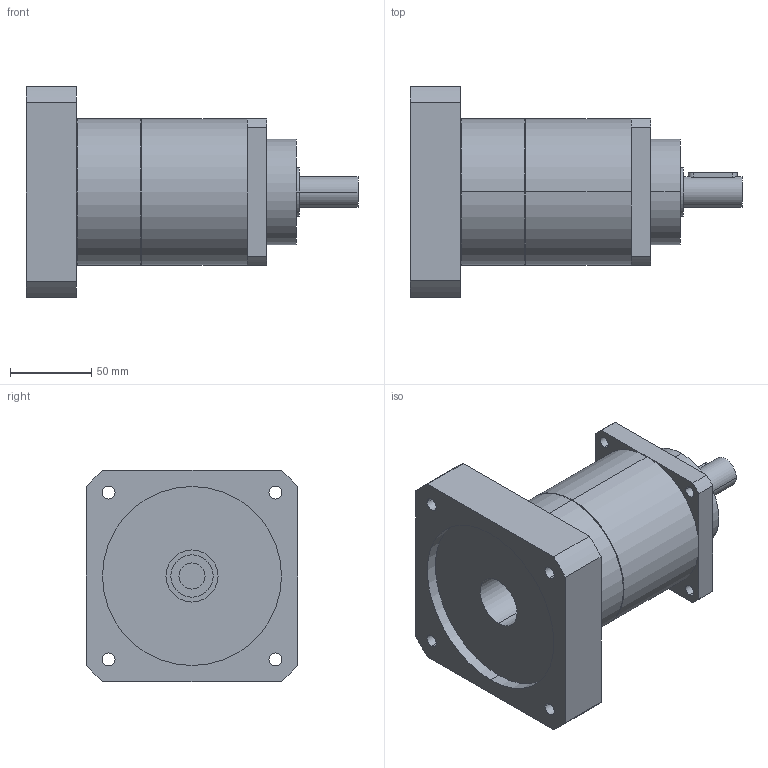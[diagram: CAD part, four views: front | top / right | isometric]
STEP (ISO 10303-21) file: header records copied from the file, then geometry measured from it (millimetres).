
FILE_DESCRIPTION(('CoCreate Modeling STEP Export'),'2;1');
FILE_NAME('GPT90_ig-9-12-16-20-25-28-35-40-50-70-100_19_B5T_16_P18.stp','2015-02-04T11:32:01',(''),(''),'CoCreate Modeling STEP processor for AP214 (Solid Model)','CoCreate Modeling 16.00C 25-Feb-2009 (C) Parametric Technology GmbH','');
FILE_SCHEMA(('AUTOMOTIVE_DESIGN { 1 0 10303 214 1 1 1 1 }'));
Length unit declared in the file: millimetre
Products named in the file (2): GPT90_ig-9-12-16-20-25-28-35-40-50-70-100_19_B5T_16_P18
Assembly tree (1 placements, depth 2):
  GPT90_ig-9-12-16-20-25-28-35-40-50-70-100_19_B5T_16_P18
    GPT90_ig-9-12-16-20-25-28-35-40-50-70-100_19_B5T_16_P18
Bounding box: 204 x 130 x 130 mm (x, y, z)
Volume: 1254249.7 mm3; surface area: 103212.7 mm2
Topology: 1 solids, 1 shells, 77 faces, 206 edges, 141 vertices
Faces by surface type: cylinder 46, plane 27, cone 4
Entity records: 2596 total; most frequent: CARTESIAN_POINT 742, ORIENTED_EDGE 412, DIRECTION 324, EDGE_CURVE 206, VERTEX_POINT 141, AXIS2_PLACEMENT_3D 120, EDGE_LOOP 103, VECTOR 84
